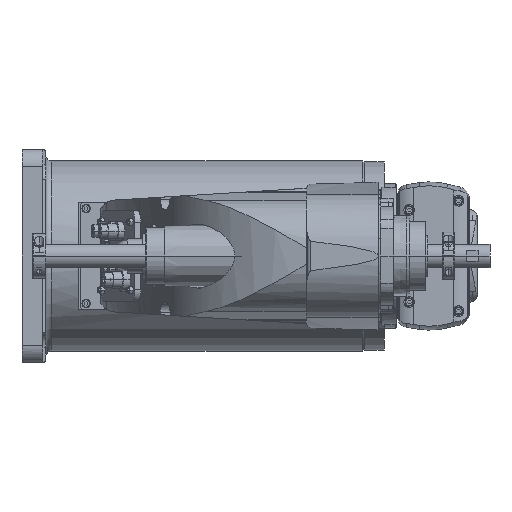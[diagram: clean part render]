
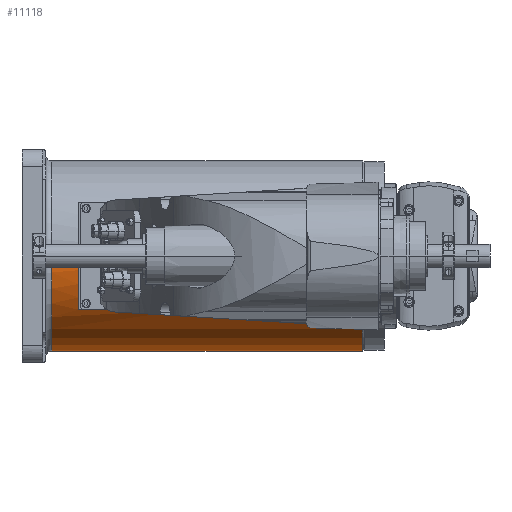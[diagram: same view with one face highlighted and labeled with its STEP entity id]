
A CAD part, left-side view. The second image highlights one B-rep face of the part: STEP entity #11118.
In plain terms, the highlighted cylindrical face has radius 80 mm (diameter 160 mm), a partial arc.
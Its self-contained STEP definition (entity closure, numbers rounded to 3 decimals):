
#8752 = VERTEX_POINT( '', #24966 );
#9568 = VERTEX_POINT( '', #25881 );
#11118 = ADVANCED_FACE( '', ( #27611 ), #27612, .T. );
#11418 = VERTEX_POINT( '', #27945 );
#11642 = VERTEX_POINT( '', #28212 );
#12166 = EDGE_CURVE( '', #22570, #11642, #28801, .T. );
#13580 = EDGE_CURVE( '', #20852, #15502, #30375, .T. );
#15224 = EDGE_CURVE( '', #18450, #15894, #32189, .T. );
#15502 = VERTEX_POINT( '', #32509 );
#15894 = VERTEX_POINT( '', #32948 );
#16214 = VERTEX_POINT( '', #33299 );
#16224 = EDGE_CURVE( '', #18192, #11418, #33310, .T. );
#16530 = EDGE_CURVE( '', #11642, #18192, #33650, .T. );
#18044 = VERTEX_POINT( '', #35379 );
#18106 = EDGE_CURVE( '', #20852, #11418, #35447, .T. );
#18192 = VERTEX_POINT( '', #35543 );
#18450 = VERTEX_POINT( '', #35832 );
#18664 = EDGE_CURVE( '', #8752, #15894, #36076, .T. );
#18842 = EDGE_CURVE( '', #18044, #18450, #36277, .T. );
#20160 = EDGE_CURVE( '', #22570, #16214, #37742, .T. );
#20852 = VERTEX_POINT( '', #38509 );
#21342 = EDGE_CURVE( '', #16214, #8752, #39044, .T. );
#22000 = EDGE_CURVE( '', #9568, #15502, #39771, .T. );
#22124 = EDGE_CURVE( '', #9568, #18044, #39906, .T. );
#22570 = VERTEX_POINT( '', #40389 );
#24966 = CARTESIAN_POINT( '', ( -80., 291.5, 0. ) );
#25881 = CARTESIAN_POINT( '', ( -80., 176., 0. ) );
#27611 = FACE_OUTER_BOUND( '', #47560, .T. );
#27612 = CYLINDRICAL_SURFACE( '', #47561, 80. );
#27945 = CARTESIAN_POINT( '', ( 80., 34.5, 0. ) );
#28212 = CARTESIAN_POINT( '', ( 46.637, 37.5, -65. ) );
#28801 = LINE( '', #49289, #49290 );
#30375 = CIRCLE( '', #51706, 80. );
#32189 = CIRCLE( '', #54507, 80. );
#32509 = CARTESIAN_POINT( '', ( -80., 30., 0. ) );
#32948 = CARTESIAN_POINT( '', ( -80., 269., 0. ) );
#33299 = CARTESIAN_POINT( '', ( 0., 291.5, -80. ) );
#33310 = CIRCLE( '', #56376, 80. );
#33650 = B_SPLINE_CURVE_WITH_KNOTS( '', 3, ( #56940, #56941, #56942, #56943, #56944, #56945, #56946, #56947, #56948, #56949, #56950, #56951, #56952, #56953, #56954, #56955 ), .UNSPECIFIED., .F., .F., ( 4, 2, 2, 2, 2, 2, 2, 4 ), ( 11.856, 12.522, 13.187, 13.853, 14.518, 16.226, 17.08, 17.933 ), .UNSPECIFIED. );
#35379 = CARTESIAN_POINT( '', ( -66., 176., -45.211 ) );
#35447 = LINE( '', #59517, #59518 );
#35543 = CARTESIAN_POINT( '', ( 50.557, 34.5, -62. ) );
#35832 = CARTESIAN_POINT( '', ( -66., 269., -45.211 ) );
#36076 = LINE( '', #60424, #60425 );
#36277 = LINE( '', #60735, #60736 );
#37742 = CIRCLE( '', #63129, 80. );
#38509 = CARTESIAN_POINT( '', ( 80., 30., 0. ) );
#39044 = CIRCLE( '', #65114, 80. );
#39771 = LINE( '', #66317, #66318 );
#39906 = CIRCLE( '', #66521, 80. );
#40389 = CARTESIAN_POINT( '', ( 46.637, 291.5, -65. ) );
#47560 = EDGE_LOOP( '', ( #74043, #74044, #74045, #74046, #74047, #74048, #74049, #74050, #74051, #74052, #74053, #74054 ) );
#47561 = AXIS2_PLACEMENT_3D( '', #74055, #74056, #74057 );
#49289 = CARTESIAN_POINT( '', ( 46.637, 164.5, -65. ) );
#49290 = VECTOR( '', #75498, 1. );
#51706 = AXIS2_PLACEMENT_3D( '', #77270, #77271, #77272 );
#54507 = AXIS2_PLACEMENT_3D( '', #79272, #79273, #79274 );
#56376 = AXIS2_PLACEMENT_3D( '', #80558, #80559, #80560 );
#56940 = CARTESIAN_POINT( '', ( 46.637, 37.5, -65. ) );
#56941 = CARTESIAN_POINT( '', ( 46.637, 37.278, -65. ) );
#56942 = CARTESIAN_POINT( '', ( 46.671, 37.061, -64.975 ) );
#56943 = CARTESIAN_POINT( '', ( 46.798, 36.648, -64.884 ) );
#56944 = CARTESIAN_POINT( '', ( 46.89, 36.452, -64.818 ) );
#56945 = CARTESIAN_POINT( '', ( 47.114, 36.09, -64.655 ) );
#56946 = CARTESIAN_POINT( '', ( 47.246, 35.923, -64.559 ) );
#56947 = CARTESIAN_POINT( '', ( 47.532, 35.625, -64.349 ) );
#56948 = CARTESIAN_POINT( '', ( 47.685, 35.493, -64.235 ) );
#56949 = CARTESIAN_POINT( '', ( 48.229, 35.087, -63.829 ) );
#56950 = CARTESIAN_POINT( '', ( 48.688, 34.861, -63.481 ) );
#56951 = CARTESIAN_POINT( '', ( 49.396, 34.641, -62.93 ) );
#56952 = CARTESIAN_POINT( '', ( 49.635, 34.587, -62.741 ) );
#56953 = CARTESIAN_POINT( '', ( 50.105, 34.516, -62.366 ) );
#56954 = CARTESIAN_POINT( '', ( 50.336, 34.5, -62.18 ) );
#56955 = CARTESIAN_POINT( '', ( 50.557, 34.5, -62. ) );
#59517 = CARTESIAN_POINT( '', ( 80., 160.75, 0. ) );
#59518 = VECTOR( '', #83125, 1. );
#60424 = CARTESIAN_POINT( '', ( -80., 160.75, 0. ) );
#60425 = VECTOR( '', #83862, 1. );
#60735 = CARTESIAN_POINT( '', ( -66., 222.5, -45.211 ) );
#60736 = VECTOR( '', #84118, 1. );
#63129 = AXIS2_PLACEMENT_3D( '', #85809, #85810, #85811 );
#65114 = AXIS2_PLACEMENT_3D( '', #87254, #87255, #87256 );
#66317 = CARTESIAN_POINT( '', ( -80., 160.75, 0. ) );
#66318 = VECTOR( '', #88109, 1. );
#66521 = AXIS2_PLACEMENT_3D( '', #88248, #88249, #88250 );
#74043 = ORIENTED_EDGE( '', *, *, #18106, .F. );
#74044 = ORIENTED_EDGE( '', *, *, #13580, .T. );
#74045 = ORIENTED_EDGE( '', *, *, #22000, .F. );
#74046 = ORIENTED_EDGE( '', *, *, #22124, .T. );
#74047 = ORIENTED_EDGE( '', *, *, #18842, .T. );
#74048 = ORIENTED_EDGE( '', *, *, #15224, .T. );
#74049 = ORIENTED_EDGE( '', *, *, #18664, .F. );
#74050 = ORIENTED_EDGE( '', *, *, #21342, .F. );
#74051 = ORIENTED_EDGE( '', *, *, #20160, .F. );
#74052 = ORIENTED_EDGE( '', *, *, #12166, .T. );
#74053 = ORIENTED_EDGE( '', *, *, #16530, .T. );
#74054 = ORIENTED_EDGE( '', *, *, #16224, .T. );
#74055 = CARTESIAN_POINT( '', ( 0., 160.75, 0. ) );
#74056 = DIRECTION( '', ( 0., -1., 0. ) );
#74057 = DIRECTION( '', ( 1., 0., 0. ) );
#75498 = DIRECTION( '', ( 0., -1., 0. ) );
#77270 = CARTESIAN_POINT( '', ( 0., 30., 0. ) );
#77271 = DIRECTION( '', ( 0., 1., 0. ) );
#77272 = DIRECTION( '', ( 1., 0., 0. ) );
#79272 = CARTESIAN_POINT( '', ( 0., 269., 0. ) );
#79273 = DIRECTION( '', ( 0., 1., 0. ) );
#79274 = DIRECTION( '', ( 1., 0., 0. ) );
#80558 = CARTESIAN_POINT( '', ( 0., 34.5, 0. ) );
#80559 = DIRECTION( '', ( 0., -1., 0. ) );
#80560 = DIRECTION( '', ( 1., 0., 0. ) );
#83125 = DIRECTION( '', ( 0., 1., 0. ) );
#83862 = DIRECTION( '', ( 0., -1., 0. ) );
#84118 = DIRECTION( '', ( 0., 1., 0. ) );
#85809 = CARTESIAN_POINT( '', ( 0., 291.5, 0. ) );
#85810 = DIRECTION( '', ( 0., 1., 0. ) );
#85811 = DIRECTION( '', ( 1., 0., 0. ) );
#87254 = CARTESIAN_POINT( '', ( 0., 291.5, 0. ) );
#87255 = DIRECTION( '', ( 0., 1., 0. ) );
#87256 = DIRECTION( '', ( 1., 0., 0. ) );
#88109 = DIRECTION( '', ( 0., -1., 0. ) );
#88248 = CARTESIAN_POINT( '', ( 0., 176., 0. ) );
#88249 = DIRECTION( '', ( 0., -1., 0. ) );
#88250 = DIRECTION( '', ( 1., 0., 0. ) );
